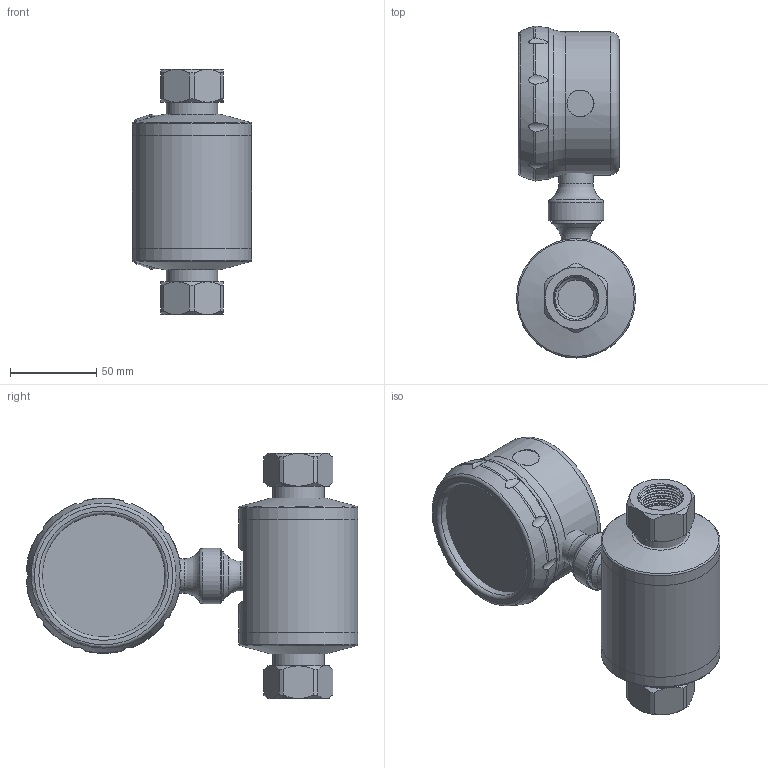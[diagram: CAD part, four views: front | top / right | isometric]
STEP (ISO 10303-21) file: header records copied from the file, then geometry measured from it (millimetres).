
FILE_DESCRIPTION( (''), '2;1');
FILE_NAME( 'QMKD_DN15_H50.5_female-thread.step', '2024-08-30T08:48:25+08:00', (''), (''), '', '', '');
FILE_SCHEMA (('AUTOMOTIVE_DESIGN { 1 0 10303 214 3 1 1 1 }'));
Length unit declared in the file: millimetre
Products named in the file (1): QMKD DN15_H50.5_female-thread
Bounding box: 69 x 192.31 x 142 mm (x, y, z)
Volume: 705649 mm3; surface area: 117139.1 mm2
Topology: 10 solids, 10 shells, 182 faces, 415 edges, 267 vertices
Faces by surface type: cylinder 57, plane 51, cone 46, torus 20, bspline 8
Full cylindrical faces by diameter (mm): 15 x2, 15.5 x1, 17 x1, 20 x1, 21 x2, 26 x1, 28 x1, 30 x2, 32 x1, 60 x2, 69 x3, 71 x1, 80 x2, 82 x5, 83 x1
Entity records: 11080 total; most frequent: CARTESIAN_POINT 7598, DIRECTION 674, ORIENTED_EDGE 634, AXIS2_PLACEMENT_3D 318, EDGE_CURVE 317, EDGE_LOOP 239, VERTEX_POINT 224, ADVANCED_FACE 173
